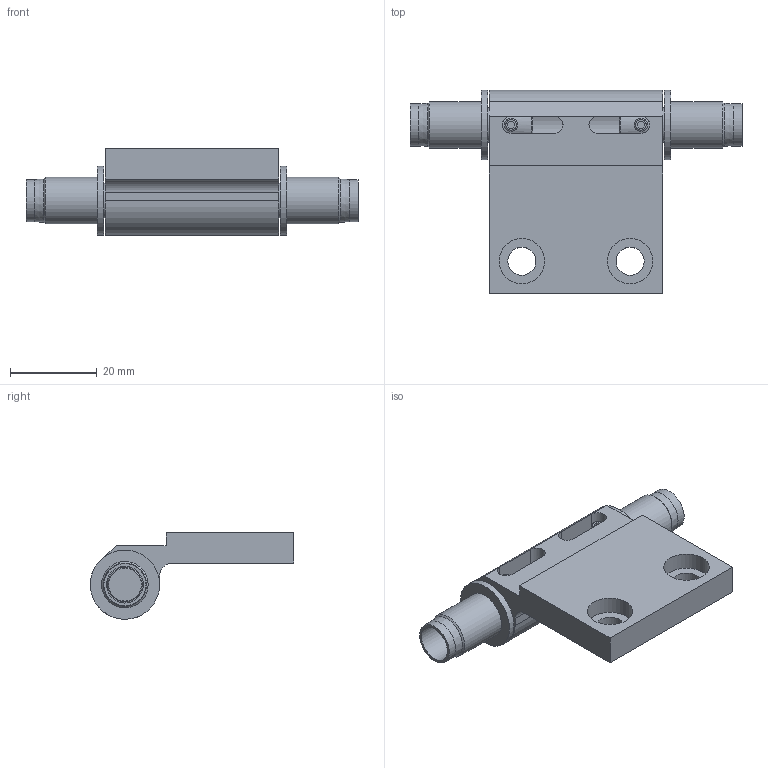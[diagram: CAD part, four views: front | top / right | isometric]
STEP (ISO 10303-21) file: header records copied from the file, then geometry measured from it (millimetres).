
FILE_DESCRIPTION (( 'STEP AP214' ), '1' );
FILE_NAME ('N50131 AVEC ACCESSOIRES.step', '2024-12-03T16:27:51', ( '' ), ( '' ), 'SwSTEP 2.0', 'SolidWorks 2023', '' );
FILE_SCHEMA (( 'AUTOMOTIVE_DESIGN' ));
Length unit declared in the file: millimetre
Products named in the file (5): N50131; L16103; Vis HC - M3 x 12N_Vis HC - M3 x 12N; N30186; N50131 AVEC ACCESSOIRES
Assembly tree (7 placements, depth 2):
  N50131 AVEC ACCESSOIRES
    N50131
    N30186  x2
    L16103  x2
    Vis HC - M3 x 12N_Vis HC - M3 x 12N  x2
Bounding box: 76.7 x 47 x 20 mm (x, y, z)
Volume: 17084.4 mm3; surface area: 11785.3 mm2
Topology: 7 solids, 7 shells, 86 faces, 192 edges, 124 vertices
Faces by surface type: plane 45, cylinder 27, cone 14
Full cylindrical faces by diameter (mm): 2.5 x2, 3 x2, 6.5 x2, 8 x2, 8.5 x2, 9.75 x2, 10 x2, 10.25 x1, 10.5 x2, 10.75 x2, 16 x2
Entity records: 1817 total; most frequent: CARTESIAN_POINT 441, DIRECTION 267, ORIENTED_EDGE 206, AXIS2_PLACEMENT_3D 104, EDGE_CURVE 103, EDGE_LOOP 93, VERTEX_POINT 78, FACE_OUTER_BOUND 69
